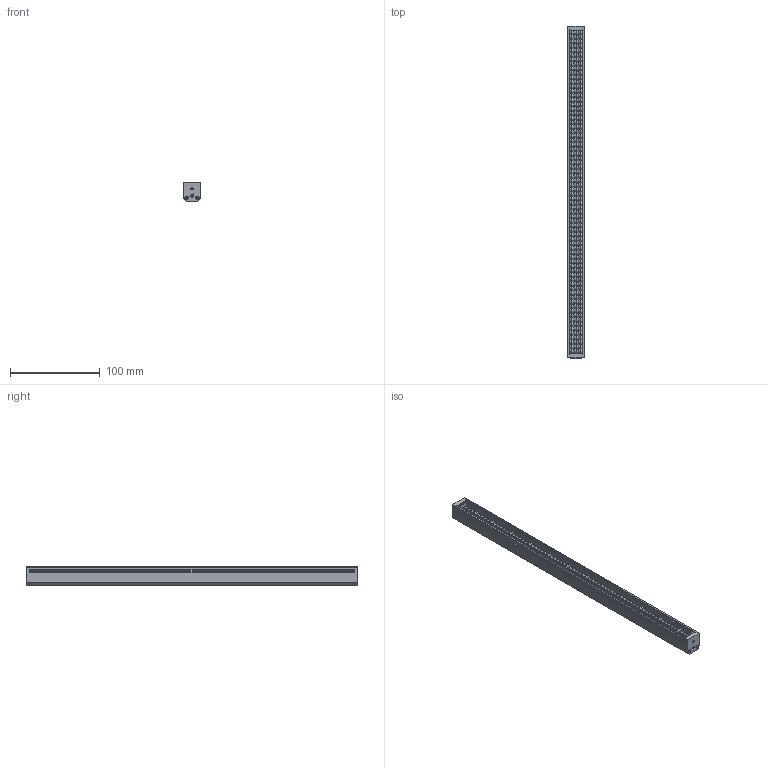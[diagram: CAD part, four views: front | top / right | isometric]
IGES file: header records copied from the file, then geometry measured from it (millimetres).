
Start section: SolidWorks IGES file using analytic representation for surfaces
Global section: file name: C:\Users\Administrator\Desktop\20200117165821327967.IGS; native system: SolidWorks 2019; preprocessor: SolidWorks 2019; author: Administrator; date: 200227.170208; units: millimetre
Bounding box: 20 x 370 x 21 mm (x, y, z)
Surface area: 67261.5 mm2 (no closed solid volume)
Topology: 0 solids, 0 shells, 609 faces, 6556 edges, 6120 vertices
Faces by surface type: bspline 560, revolution 49
